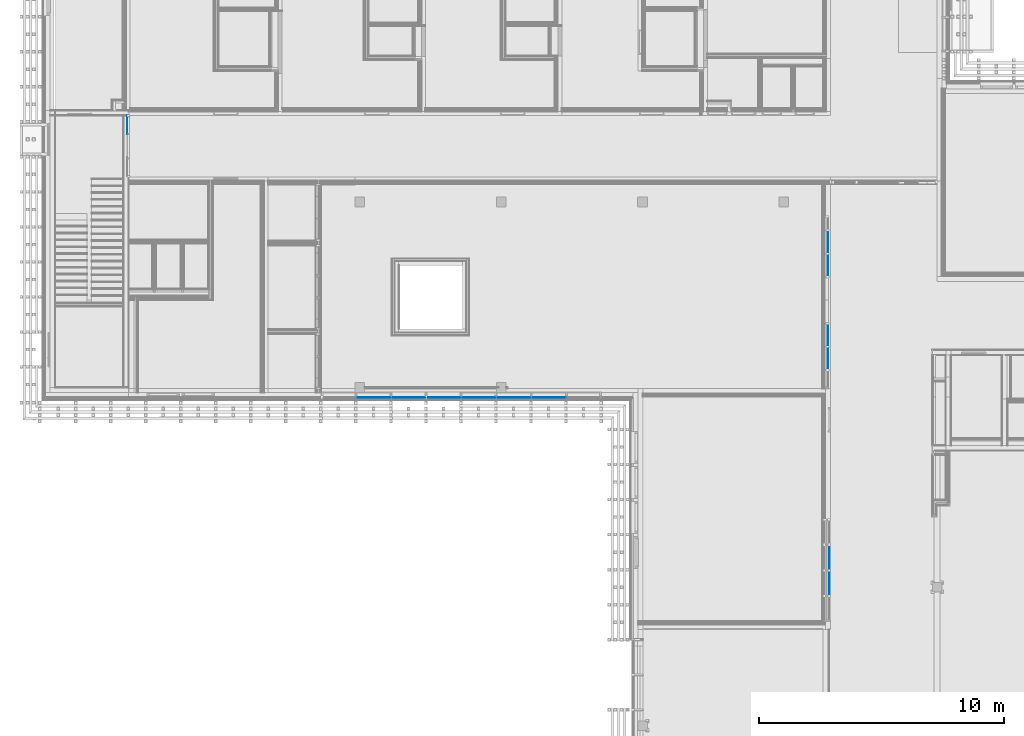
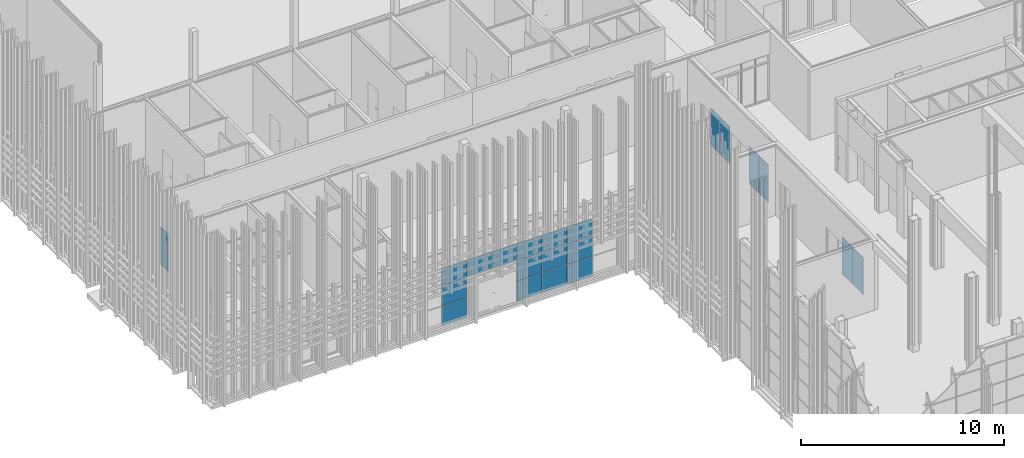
# One storey, part 55 of 260: 21 plates, 4 elements without a shape of their own.
"""IFC2X3 building model written with IfcOpenShell, lengths in millimetres."""

from ifc_helpers import new_model, entity, si_unit, converted_unit, derived_unit, money_unit, direction, frame, origin_with_axes, place, context, subcontext, project, spatial, faceted_brep, source, transform, mapped, material, type_object, element, aggregate, save


model = new_model("IFC2X3")

# Units and contexts
model_context = context("Model", 3, precision=0.01, world=origin_with_axes(), true_north=direction((0.0, 1.0)))
body_context = subcontext(model_context, "Body", "Model", "MODEL_VIEW")
ifc_project = project(units=[si_unit("LENGTHUNIT", "METRE", prefix="MILLI"), si_unit("AREAUNIT", "SQUARE_METRE"), si_unit("VOLUMEUNIT", "CUBIC_METRE"), converted_unit("PLANEANGLEUNIT", "DEGREE", entity("IfcPlaneAngleMeasure", 0.0174532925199), si_unit("PLANEANGLEUNIT", "RADIAN"), dimensions=[0, 0, 0, 0, 0, 0, 0]), money_unit("EUR"), converted_unit("TIMEUNIT", "Year", entity("IfcTimeMeasure", 31556926.0), si_unit("TIMEUNIT", "SECOND"), dimensions=[0, 0, 1, 0, 0, 0, 0]), si_unit("MASSUNIT", "GRAM", prefix="KILO"), si_unit("THERMODYNAMICTEMPERATUREUNIT", "DEGREE_CELSIUS"), si_unit("LUMINOUSINTENSITYUNIT", "LUMEN"), si_unit("ENERGYUNIT", "JOULE", prefix="MEGA"), derived_unit("THERMALCONDUCTANCEUNIT", [(si_unit("POWERUNIT", "WATT"), 1), (si_unit("LENGTHUNIT", "METRE"), -1), (si_unit("THERMODYNAMICTEMPERATUREUNIT", "KELVIN"), -1)]), derived_unit("SPECIFICHEATCAPACITYUNIT", [(si_unit("ENERGYUNIT", "JOULE"), 1), (si_unit("MASSUNIT", "GRAM", prefix="KILO"), -1), (si_unit("THERMODYNAMICTEMPERATUREUNIT", "KELVIN"), -1)]), derived_unit("MASSDENSITYUNIT", [(si_unit("MASSUNIT", "GRAM", prefix="KILO"), 1), (si_unit("VOLUMEUNIT", "CUBIC_METRE"), -1)])], contexts=[model_context])

# Site, building, storey
site_placement = place(None, origin_with_axes())
site = spatial("IfcSite", under=ifc_project, at=site_placement, Name="Kolde pst 67a", CompositionType="ELEMENT")
building_placement = place(site_placement, origin_with_axes())
building = spatial("IfcBuilding", under=site, at=building_placement, Name="Riigigümnaasium", CompositionType="ELEMENT")
storey_placement = place(building_placement, origin_with_axes())
storey = spatial("IfcBuildingStorey", under=building, at=storey_placement, Name="1. korrus", CompositionType="ELEMENT", Elevation=0.0)

# Curtain wall, plates
curtain_wall_type = type_object("IfcCurtainWallType", Name="Curtain Wall Type", PredefinedType="NOTDEFINED")
curtain_wall_1_placement = place(storey_placement, frame((20393.1746439, 47839.7660528, -0.000116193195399), z_axis=(0.0, 0.0, 1.0), x_axis=(1.0, 0.0, 0.0)))
curtain_wall_1 = element("IfcCurtainWall", 1, at=curtain_wall_1_placement, inside=storey, type_object=curtain_wall_type, Name="KLAASFASSAAD")
ifc_material_1 = material(Name="_KLAAS - kirgas")
plate_type_1 = type_object("IfcPlateType", Name="Turvaklaas 1420 x 1195 x 33", PredefinedType="CURTAIN_PANEL")
shared_shape_1 = source(origin_with_axes(), body_context, "Body", "Brep", [
    faceted_brep([(-1425.00000328, 1225.00045404, -16.5), (-1425.00000328, 1225.00045404, 16.5), (-4.99999672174, 1225.00045404, 16.5), (-4.99999672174, 1225.00045404, -16.5), (-1425.00000328, 30.0000016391, -16.5), (-1425.00000328, 30.0000016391, 16.5), (-4.99999672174, 30.0000016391, 16.5), (-4.99999672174, 30.0000016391, -16.5)], [[[0, 1, 2, 3]], [[4, 5, 1, 0]], [[1, 5, 6, 2]], [[3, 2, 6, 7]], [[0, 3, 7, 4]], [[7, 6, 5, 4]]]),
])
plate_1_placement = place(curtain_wall_1_placement, frame((0.0, 0.0, 615.000058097), z_axis=(0.0, 0.0, 1.0), x_axis=(1.0, 0.0, 0.0)))
plate_1 = element("IfcPlate", 2, at=plate_1_placement, type_object=plate_type_1, material=ifc_material_1, Name="Panel-Turvaklaas-001", ObjectType="CURTAIN_PANEL", context=body_context, shape_type="MappedRepresentation", body=[
    mapped(shared_shape_1, transform((715.0, 0.0, -615.000058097), x_axis=(1.0, 0.0, 0.0), y_axis=(0.0, 0.0, 1.0), z_axis=(0.0, -1.0, 0.0))),
])
plate_2_placement = place(curtain_wall_1_placement, frame((-1430.0, 0.0, 615.000058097), z_axis=(0.0, 0.0, 1.0), x_axis=(1.0, 0.0, 0.0)))
plate_2 = element("IfcPlate", 3, at=plate_2_placement, type_object=plate_type_1, material=ifc_material_1, Name="Panel-Turvaklaas-002", ObjectType="CURTAIN_PANEL", context=body_context, shape_type="MappedRepresentation", body=[
    mapped(shared_shape_1, transform((715.0, 0.0, -615.000058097), x_axis=(1.0, 0.0, 0.0), y_axis=(0.0, 0.0, 1.0), z_axis=(0.0, -1.0, 0.0))),
])
plate_3_placement = place(curtain_wall_1_placement, frame((-2860.0, 0.0, 615.000058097), z_axis=(0.0, 0.0, 1.0), x_axis=(1.0, 0.0, 0.0)))
plate_3 = element("IfcPlate", 4, at=plate_3_placement, type_object=plate_type_1, material=ifc_material_1, Name="Panel-Turvaklaas-003", ObjectType="CURTAIN_PANEL", context=body_context, shape_type="MappedRepresentation", body=[
    mapped(shared_shape_1, transform((715.0, 0.0, -615.000058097), x_axis=(1.0, 0.0, 0.0), y_axis=(0.0, 0.0, 1.0), z_axis=(0.0, -1.0, 0.0))),
])
plate_4_placement = place(curtain_wall_1_placement, frame((-7150.0, 0.0, 615.000058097), z_axis=(0.0, 0.0, 1.0), x_axis=(1.0, 0.0, 0.0)))
plate_4 = element("IfcPlate", 5, at=plate_4_placement, type_object=plate_type_1, material=ifc_material_1, Name="Panel-Turvaklaas-004", ObjectType="CURTAIN_PANEL", context=body_context, shape_type="MappedRepresentation", body=[
    mapped(shared_shape_1, transform((715.0, 0.0, -615.000058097), x_axis=(1.0, 0.0, 0.0), y_axis=(0.0, 0.0, 1.0), z_axis=(0.0, -1.0, 0.0))),
])
plate_type_2 = type_object("IfcPlateType", Name="Main Panel 1420 x 1220 x 33", PredefinedType="NOTDEFINED")
shared_shape_2 = source(origin_with_axes(), body_context, "Body", "Brep", [
    faceted_brep([(-1425.00000328, 1225.00000656, -16.5), (-1425.00000328, 1225.00000656, 16.5), (-4.99999672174, 1225.00000656, 16.5), (-4.99999672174, 1225.00000656, -16.5), (-1425.00000328, 4.99999672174, -16.5), (-1425.00000328, 4.99999672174, 16.5), (-4.99999672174, 4.99999672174, 16.5), (-4.99999672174, 4.99999672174, -16.5)], [[[0, 1, 2, 3]], [[4, 5, 1, 0]], [[1, 5, 6, 2]], [[3, 2, 6, 7]], [[0, 3, 7, 4]], [[7, 6, 5, 4]]]),
])
plate_5_placement = place(curtain_wall_1_placement, frame((0.0, 0.0, 1845.00011619), z_axis=(0.0, 0.0, 1.0), x_axis=(1.0, 0.0, 0.0)))
plate_5 = element("IfcPlate", 6, at=plate_5_placement, type_object=plate_type_2, material=ifc_material_1, Name="RF PANEEL PEAMINE-988", context=body_context, shape_type="MappedRepresentation", body=[
    mapped(shared_shape_2, transform((715.0, 0.0, -615.0), x_axis=(1.0, 0.0, 0.0), y_axis=(0.0, 0.0, 1.0), z_axis=(0.0, -1.0, 0.0))),
])
plate_6_placement = place(curtain_wall_1_placement, frame((-1430.0, 0.0, 1845.00011619), z_axis=(0.0, 0.0, 1.0), x_axis=(1.0, 0.0, 0.0)))
plate_6 = element("IfcPlate", 7, at=plate_6_placement, type_object=plate_type_2, material=ifc_material_1, Name="RF PANEEL PEAMINE-989", context=body_context, shape_type="MappedRepresentation", body=[
    mapped(shared_shape_2, transform((715.0, 0.0, -615.0), x_axis=(1.0, 0.0, 0.0), y_axis=(0.0, 0.0, 1.0), z_axis=(0.0, -1.0, 0.0))),
])
plate_7_placement = place(curtain_wall_1_placement, frame((-2860.0, 0.0, 1845.00011619), z_axis=(0.0, 0.0, 1.0), x_axis=(1.0, 0.0, 0.0)))
plate_7 = element("IfcPlate", 8, at=plate_7_placement, type_object=plate_type_2, material=ifc_material_1, Name="RF PANEEL PEAMINE-990", context=body_context, shape_type="MappedRepresentation", body=[
    mapped(shared_shape_2, transform((715.0, 0.0, -615.0), x_axis=(1.0, 0.0, 0.0), y_axis=(0.0, 0.0, 1.0), z_axis=(0.0, -1.0, 0.0))),
])
plate_8_placement = place(curtain_wall_1_placement, frame((-7150.0, 0.0, 1845.00011619), z_axis=(0.0, 0.0, 1.0), x_axis=(1.0, 0.0, 0.0)))
plate_8 = element("IfcPlate", 9, at=plate_8_placement, type_object=plate_type_2, material=ifc_material_1, Name="RF PANEEL PEAMINE-993", context=body_context, shape_type="MappedRepresentation", body=[
    mapped(shared_shape_2, transform((715.0, 0.0, -615.0), x_axis=(1.0, 0.0, 0.0), y_axis=(0.0, 0.0, 1.0), z_axis=(0.0, -1.0, 0.0))),
])
plate_type_3 = type_object("IfcPlateType", Name="Main Panel 1420 x 995 x 33", PredefinedType="NOTDEFINED")
shared_shape_3 = source(origin_with_axes(), body_context, "Body", "Brep", [
    faceted_brep([(-1425.00000328, 1000.00009015, -16.5), (-1425.00000328, 1000.00009015, 16.5), (-4.99999672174, 1000.00002623, 16.5), (-4.99999672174, 1000.00002623, -16.5), (-1425.00000328, 4.99999672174, -16.5), (-1425.00000328, 4.99999672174, 16.5), (-4.99999672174, 4.99999672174, 16.5), (-4.99999672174, 4.99999672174, -16.5)], [[[0, 1, 2, 3]], [[4, 5, 1, 0]], [[1, 5, 6, 2]], [[3, 2, 6, 7]], [[0, 3, 7, 4]], [[7, 6, 5, 4]]]),
])
plate_9_placement = place(curtain_wall_1_placement, frame((0.0, 0.0, 2975.00014676), z_axis=(0.0, 0.0, 1.0), x_axis=(1.0, 0.0, 0.0)))
plate_9 = element("IfcPlate", 10, at=plate_9_placement, type_object=plate_type_3, material=ifc_material_1, Name="RF PANEEL PEAMINE-997", context=body_context, shape_type="MappedRepresentation", body=[
    mapped(shared_shape_3, transform((715.0, 0.0, -515.000030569), x_axis=(1.0, 0.0, 0.0), y_axis=(0.0, 0.0, 1.0), z_axis=(0.0, -1.0, 0.0))),
])
plate_10_placement = place(curtain_wall_1_placement, frame((-1430.0, 0.0, 2975.00016368), z_axis=(0.0, 0.0, 1.0), x_axis=(1.0, 0.0, 0.0)))
plate_10 = element("IfcPlate", 11, at=plate_10_placement, type_object=plate_type_3, material=ifc_material_1, Name="RF PANEEL PEAMINE-998", context=body_context, shape_type="MappedRepresentation", body=[
    mapped(shared_shape_3, transform((715.0, 0.0, -515.000047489), x_axis=(1.0, 0.0, 0.0), y_axis=(0.0, 0.0, 1.0), z_axis=(0.0, -1.0, 0.0))),
])
plate_11_placement = place(curtain_wall_1_placement, frame((-2860.0, 0.0, 2975.00016368), z_axis=(0.0, 0.0, 1.0), x_axis=(1.0, 0.0, 0.0)))
plate_11 = element("IfcPlate", 12, at=plate_11_placement, type_object=plate_type_3, material=ifc_material_1, Name="RF PANEEL PEAMINE-999", context=body_context, shape_type="MappedRepresentation", body=[
    mapped(shared_shape_3, transform((715.0, 0.0, -515.000047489), x_axis=(1.0, 0.0, 0.0), y_axis=(0.0, 0.0, 1.0), z_axis=(0.0, -1.0, 0.0))),
])
plate_12_placement = place(curtain_wall_1_placement, frame((-4290.0, 0.0, 2975.00016368), z_axis=(0.0, 0.0, 1.0), x_axis=(1.0, 0.0, 0.0)))
plate_12 = element("IfcPlate", 13, at=plate_12_placement, type_object=plate_type_3, material=ifc_material_1, Name="RF PANEEL PEAMINE-000", context=body_context, shape_type="MappedRepresentation", body=[
    mapped(shared_shape_3, transform((715.0, 0.0, -515.000047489), x_axis=(1.0, 0.0, 0.0), y_axis=(0.0, 0.0, 1.0), z_axis=(0.0, -1.0, 0.0))),
])
plate_13_placement = place(curtain_wall_1_placement, frame((-5720.0, 0.0, 2975.00016368), z_axis=(0.0, 0.0, 1.0), x_axis=(1.0, 0.0, 0.0)))
plate_13 = element("IfcPlate", 14, at=plate_13_placement, type_object=plate_type_3, material=ifc_material_1, Name="RF PANEEL PEAMINE-001", context=body_context, shape_type="MappedRepresentation", body=[
    mapped(shared_shape_3, transform((715.0, 0.0, -515.000047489), x_axis=(1.0, 0.0, 0.0), y_axis=(0.0, 0.0, 1.0), z_axis=(0.0, -1.0, 0.0))),
])
plate_14_placement = place(curtain_wall_1_placement, frame((-7150.0, 0.0, 2975.00016368), z_axis=(0.0, 0.0, 1.0), x_axis=(1.0, 0.0, 0.0)))
plate_14 = element("IfcPlate", 15, at=plate_14_placement, type_object=plate_type_3, material=ifc_material_1, Name="RF PANEEL PEAMINE-002", context=body_context, shape_type="MappedRepresentation", body=[
    mapped(shared_shape_3, transform((715.0, 0.0, -515.000047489), x_axis=(1.0, 0.0, 0.0), y_axis=(0.0, 0.0, 1.0), z_axis=(0.0, -1.0, 0.0))),
])
aggregate(curtain_wall_1, [plate_1, plate_2, plate_3, plate_4, plate_5, plate_6, plate_7, plate_8, plate_9, plate_10, plate_11, plate_12, plate_13, plate_14])

curtain_wall_2_placement = place(storey_placement, frame((31790.0027795, 49434.9164747, -6.11802017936e-05), z_axis=(0.0, 0.0, 1.0), x_axis=(1.0, 0.0, 0.0)))
curtain_wall_2 = element("IfcCurtainWall", 16, at=curtain_wall_2_placement, inside=storey, type_object=curtain_wall_type, Name="KLAASSEIN")
ifc_material_2 = material(Name="_GENEERILINE MATERJAL KLAAS")
plate_type_4 = type_object("IfcPlateType", Name="Distinct Panel 940 x 2240 x 20", PredefinedType="NOTDEFINED")
shared_shape_4 = source(origin_with_axes(), body_context, "Body", "Brep", [
    faceted_brep([(944.999998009, 2270.00012288, -10.0), (5.00001068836, 2270.00012288, -10.0), (5.00001068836, 2270.00012288, 10.0), (944.999998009, 2270.00012288, 10.0), (944.999998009, 29.9999955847, -10.0), (5.00001068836, 29.9999955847, -10.0), (5.00001068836, 29.9999955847, 10.0), (944.999998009, 29.9999955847, 10.0)], [[[0, 1, 2, 3]], [[0, 4, 5, 1]], [[1, 5, 6, 2]], [[3, 2, 6, 7]], [[4, 0, 3, 7]], [[5, 4, 7, 6]]]),
])
plate_15_placement = place(curtain_wall_2_placement, frame((0.0, 0.0, 1150.00006753), z_axis=(0.0, 0.0, 1.0), x_axis=(0.0, -1.0, 0.0)))
plate_15 = element("IfcPlate", 17, at=plate_15_placement, type_object=plate_type_4, material=ifc_material_2, Name="RF PANEEL ERI-030", context=body_context, shape_type="MappedRepresentation", body=[
    mapped(shared_shape_4, transform((475.0, 0.0, -1150.00005066), x_axis=(-1.0, 0.0, 0.0), y_axis=(0.0, 0.0, 1.0), z_axis=(0.0, 1.0, 0.0))),
])
plate_16_placement = place(curtain_wall_2_placement, frame((0.0, 950.0, 1150.00006753), z_axis=(0.0, 0.0, 1.0), x_axis=(0.0, -1.0, 0.0)))
plate_16 = element("IfcPlate", 18, at=plate_16_placement, type_object=plate_type_4, material=ifc_material_2, Name="RF PANEEL ERI-031", context=body_context, shape_type="MappedRepresentation", body=[
    mapped(shared_shape_4, transform((475.0, 0.0, -1150.00005066), x_axis=(-1.0, 0.0, 0.0), y_axis=(0.0, 0.0, 1.0), z_axis=(0.0, 1.0, 0.0))),
])
plate_17_placement = place(curtain_wall_2_placement, frame((0.0, 3800.0, 1150.00006753), z_axis=(0.0, 0.0, 1.0), x_axis=(0.0, -1.0, 0.0)))
plate_17 = element("IfcPlate", 19, at=plate_17_placement, type_object=plate_type_4, material=ifc_material_2, Name="RF PANEEL ERI-034", context=body_context, shape_type="MappedRepresentation", body=[
    mapped(shared_shape_4, transform((475.0, 0.0, -1150.00005066), x_axis=(-1.0, 0.0, 0.0), y_axis=(0.0, 0.0, 1.0), z_axis=(0.0, 1.0, 0.0))),
])
plate_18_placement = place(curtain_wall_2_placement, frame((0.0, 4750.0, 1150.00006753), z_axis=(0.0, 0.0, 1.0), x_axis=(0.0, -1.0, 0.0)))
plate_18 = element("IfcPlate", 20, at=plate_18_placement, type_object=plate_type_4, material=ifc_material_2, Name="RF PANEEL ERI-035", context=body_context, shape_type="MappedRepresentation", body=[
    mapped(shared_shape_4, transform((475.0, 0.0, -1150.00005066), x_axis=(-1.0, 0.0, 0.0), y_axis=(0.0, 0.0, 1.0), z_axis=(0.0, 1.0, 0.0))),
])
aggregate(curtain_wall_2, [plate_15, plate_16, plate_17, plate_18])

curtain_wall_3_placement = place(storey_placement, frame((31858.898599, 40257.4808267, -3.66549283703e-05), z_axis=(0.0, 0.0, 1.0), x_axis=(1.0, 0.0, 0.0)))
curtain_wall_3 = element("IfcCurtainWall", 21, at=curtain_wall_3_placement, inside=storey, type_object=curtain_wall_type, Name="KLAASSEIN")
plate_type_5 = type_object("IfcPlateType", Name="Distinct Panel 1035 x 2240 x 20", PredefinedType="NOTDEFINED")
shared_shape_5 = source(origin_with_axes(), body_context, "Body", "Brep", [
    faceted_brep([(1039.99999988, 2270.00020736, -10.0), (5.00001087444, 2270.00020736, -10.0), (5.00001087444, 2270.00020736, 10.0), (1039.99999988, 2270.00020736, 10.0), (1039.99999988, 29.9999967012, -10.0), (5.00001087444, 29.9999967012, -10.0), (5.00001087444, 29.9999967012, 10.0), (1039.99999988, 29.9999967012, 10.0)], [[[0, 1, 2, 3]], [[0, 4, 5, 1]], [[1, 5, 6, 2]], [[3, 2, 6, 7]], [[4, 0, 3, 7]], [[5, 4, 7, 6]]]),
])
plate_19_placement = place(curtain_wall_3_placement, frame((0.0, 0.0, 1150.00010203), z_axis=(0.0, 0.0, 1.0), x_axis=(0.0, -1.0, 0.0)))
plate_19 = element("IfcPlate", 22, at=plate_19_placement, type_object=plate_type_5, material=ifc_material_2, Name="RF PANEEL ERI-026", context=body_context, shape_type="MappedRepresentation", body=[
    mapped(shared_shape_5, transform((522.5, 0.0, -1150.00010203), x_axis=(-1.0, 0.0, 0.0), y_axis=(0.0, 0.0, 1.0), z_axis=(0.0, 1.0, 0.0))),
])
plate_20_placement = place(curtain_wall_3_placement, frame((0.0, 1045.0, 1150.00010203), z_axis=(0.0, 0.0, 1.0), x_axis=(0.0, -1.0, 0.0)))
plate_20 = element("IfcPlate", 23, at=plate_20_placement, type_object=plate_type_5, material=ifc_material_2, Name="RF PANEEL ERI-027", context=body_context, shape_type="MappedRepresentation", body=[
    mapped(shared_shape_5, transform((522.5, 0.0, -1150.00010203), x_axis=(-1.0, 0.0, 0.0), y_axis=(0.0, 0.0, 1.0), z_axis=(0.0, 1.0, 0.0))),
])
aggregate(curtain_wall_3, [plate_19, plate_20])

# Curtain wall, plate
curtain_wall_4_placement = place(storey_placement, frame((3185.44852283, 58094.9979478, 0.0), z_axis=(0.0, 0.0, 1.0), x_axis=(1.0, 0.0, 0.0)))
curtain_wall_4 = element("IfcCurtainWall", 24, at=curtain_wall_4_placement, inside=storey, type_object=curtain_wall_type, Name="KLAASSEIN")
plate_type_6 = type_object("IfcPlateType", Name="Distinct Panel 20 x 20 x 20", PredefinedType="NOTDEFINED")
shared_shape_6 = source(origin_with_axes(), body_context, "Body", "Brep", [
    faceted_brep([(1019.9999931, 2300.00008941, -10.0), (999.999984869, 2300.00008941, -10.0), (999.999984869, 2300.00008941, 10.0), (1019.9999931, 2300.00008941, 10.0), (1019.9999931, 0.0, -10.0), (999.999984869, 0.0, -10.0), (999.999984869, 20.000008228, -10.0), (264.999999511, 20.000008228, -10.0), (264.999999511, 2280.00008118, -10.0), (999.999984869, 2280.00008118, -10.0), (999.999984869, 2280.00008118, 10.0), (264.999999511, 2280.00008118, 10.0), (264.999999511, 20.000008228, 10.0), (999.999984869, 20.000008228, 10.0), (999.999984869, 0.0, 10.0), (1019.9999931, 0.0, 10.0)], [[[0, 1, 2, 3]], [[0, 4, 5, 6, 7, 8, 9, 1]], [[1, 9, 10, 2]], [[3, 2, 10, 11, 12, 13, 14, 15]], [[4, 0, 3, 15]], [[5, 4, 15, 14]], [[6, 5, 14, 13]], [[7, 6, 13, 12]], [[8, 7, 12, 11]], [[9, 8, 11, 10]]]),
])
plate_21_placement = place(curtain_wall_4_placement, frame((0.0, 877.500004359, 1150.0000447), z_axis=(0.0, 0.0, 1.0), x_axis=(0.0, 1.0, 0.0)))
plate_21 = element("IfcPlate", 25, at=plate_21_placement, type_object=plate_type_6, material=ifc_material_2, Name="RF PANEEL ERI-049", context=body_context, shape_type="MappedRepresentation", body=[
    mapped(shared_shape_6, transform((622.499995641, 0.0, -1150.0000447), x_axis=(-1.0, 0.0, 0.0), y_axis=(0.0, 0.0, 1.0), z_axis=(0.0, 1.0, 0.0))),
])
aggregate(curtain_wall_4, [plate_21])

save(model, "model.ifc")
